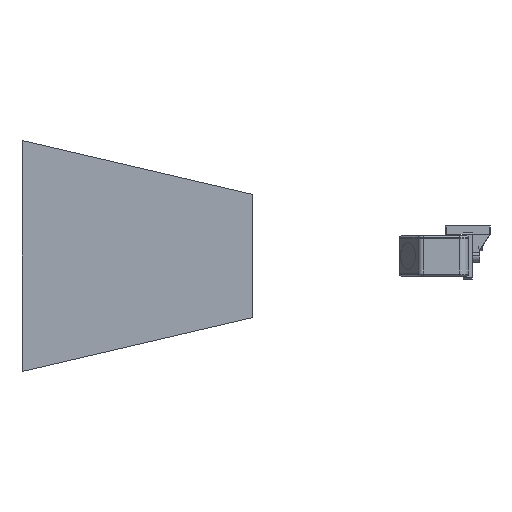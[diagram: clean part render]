
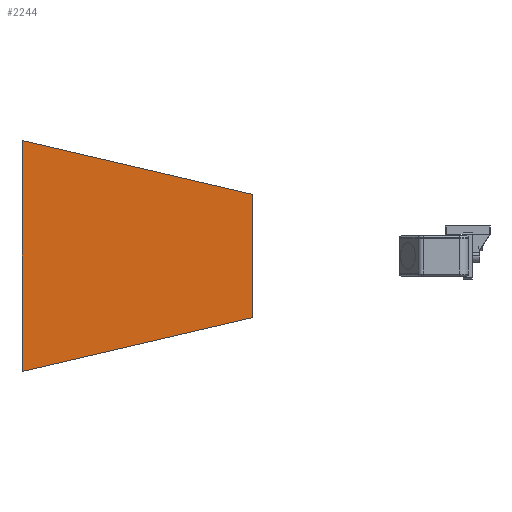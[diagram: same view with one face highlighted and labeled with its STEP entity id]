
A CAD part, front view. The second image highlights one B-rep face of the part: STEP entity #2244.
In plain terms, the highlighted planar face has unit normal (0, -1, 0) as drawn and (0, 0, -1) by its records, which use the part's own axes.
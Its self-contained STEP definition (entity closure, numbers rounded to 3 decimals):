
#1722 = ORIENTED_EDGE ( 'NONE', *, *, #30493, .F. ) ;
#2244 = ADVANCED_FACE ( 'NONE', ( #27720 ), #52910, .T. ) ;
#2869 = VERTEX_POINT ( 'NONE', #41956 ) ;
#2922 = EDGE_LOOP ( 'NONE', ( #44904, #1722, #36507, #42337 ) ) ;
#3671 = EDGE_CURVE ( 'NONE', #31556, #27170, #34012, .T. ) ;
#3961 = DIRECTION ( 'NONE',  ( -1., 0., 0. ) ) ;
#4196 = DIRECTION ( 'NONE',  ( 1., 0., 0. ) ) ;
#4232 = CARTESIAN_POINT ( 'NONE',  ( -150., 138.353, 0. ) ) ;
#9095 = CARTESIAN_POINT ( 'NONE',  ( -150., 138.353, 0. ) ) ;
#9828 = DIRECTION ( 'NONE',  ( 0.227, 0.974, 0. ) ) ;
#10345 = CARTESIAN_POINT ( 'NONE',  ( 150., 138.353, 0. ) ) ;
#20612 = DIRECTION ( 'NONE',  ( 0., 0., -1. ) ) ;
#20884 = EDGE_CURVE ( 'NONE', #45835, #2869, #32131, .T. ) ;
#23478 = AXIS2_PLACEMENT_3D ( 'NONE', #37009, #20612, #3961 ) ;
#27170 = VERTEX_POINT ( 'NONE', #28267 ) ;
#27633 = LINE ( 'NONE', #45605, #46732 ) ;
#27720 = FACE_OUTER_BOUND ( 'NONE', #2922, .T. ) ;
#28267 = CARTESIAN_POINT ( 'NONE',  ( 150., 138.353, 0. ) ) ;
#28921 = VECTOR ( 'NONE', #9828, 1000. ) ;
#30493 = EDGE_CURVE ( 'NONE', #27170, #45835, #33216, .T. ) ;
#31556 = VERTEX_POINT ( 'NONE', #42780 ) ;
#32131 = LINE ( 'NONE', #46894, #43674 ) ;
#33216 = LINE ( 'NONE', #4232, #40223 ) ;
#34012 = LINE ( 'NONE', #10345, #28921 ) ;
#35121 = DIRECTION ( 'NONE',  ( 0.227, -0.974, 0. ) ) ;
#36507 = ORIENTED_EDGE ( 'NONE', *, *, #3671, .F. ) ;
#37009 = CARTESIAN_POINT ( 'NONE',  ( 0., 0., 0. ) ) ;
#40223 = VECTOR ( 'NONE', #41395, 1000. ) ;
#41395 = DIRECTION ( 'NONE',  ( -1., 0., 0. ) ) ;
#41956 = CARTESIAN_POINT ( 'NONE',  ( -80., -161.647, 0. ) ) ;
#42337 = ORIENTED_EDGE ( 'NONE', *, *, #48150, .F. ) ;
#42780 = CARTESIAN_POINT ( 'NONE',  ( 80., -161.647, 0. ) ) ;
#43674 = VECTOR ( 'NONE', #35121, 1000. ) ;
#44904 = ORIENTED_EDGE ( 'NONE', *, *, #20884, .F. ) ;
#45605 = CARTESIAN_POINT ( 'NONE',  ( 80., -161.647, 0. ) ) ;
#45835 = VERTEX_POINT ( 'NONE', #9095 ) ;
#46732 = VECTOR ( 'NONE', #4196, 1000. ) ;
#46894 = CARTESIAN_POINT ( 'NONE',  ( -80., -161.647, 0. ) ) ;
#48150 = EDGE_CURVE ( 'NONE', #2869, #31556, #27633, .T. ) ;
#52910 = PLANE ( 'NONE',  #23478 ) ;
